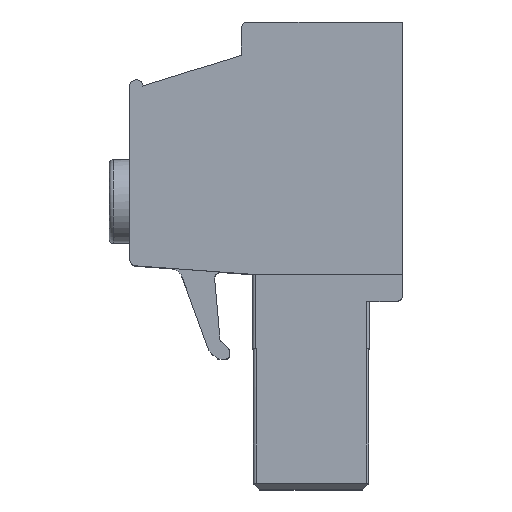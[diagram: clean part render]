
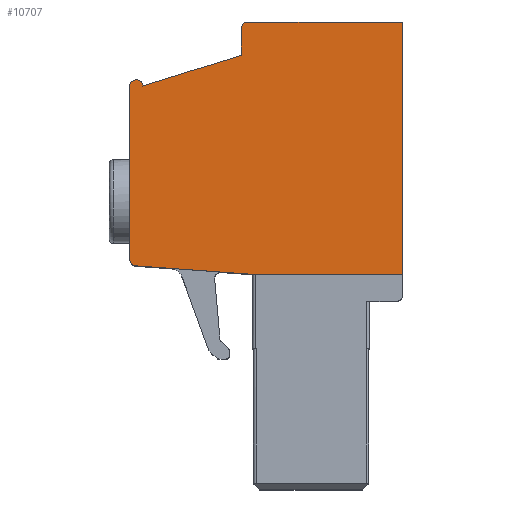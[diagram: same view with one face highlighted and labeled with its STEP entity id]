
A CAD part, top view. The second image highlights one B-rep face of the part: STEP entity #10707.
In plain terms, the highlighted planar face has unit normal (0, 0, 1).
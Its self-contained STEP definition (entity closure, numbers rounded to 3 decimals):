
#528=DIRECTION('',(1.,0.,0.));
#529=VECTOR('',#528,11.7);
#530=CARTESIAN_POINT('',(11.2,20.614,-22.724));
#531=LINE('',#530,#529);
#1682=CARTESIAN_POINT('',(2.1,21.779,-22.724));
#1683=DIRECTION('',(0.,0.,-1.));
#1684=DIRECTION('',(-0.073,-0.997,0.));
#1685=AXIS2_PLACEMENT_3D('',#1682,#1683,#1684);
#1687=DIRECTION('',(0.,1.,0.));
#1688=VECTOR('',#1687,13.535);
#1689=CARTESIAN_POINT('',(1.6,21.779,-22.724));
#1690=LINE('',#1689,#1688);
#1691=CARTESIAN_POINT('',(2.1,35.314,-22.724));
#1692=DIRECTION('',(0.,0.,-1.));
#1693=DIRECTION('',(-1.,0.,0.));
#1694=AXIS2_PLACEMENT_3D('',#1691,#1692,#1693);
#1696=DIRECTION('',(0.955,0.298,0.));
#1697=VECTOR('',#1696,8.065);
#1698=CARTESIAN_POINT('',(2.6,35.314,-22.724));
#1699=LINE('',#1698,#1697);
#1700=DIRECTION('',(0.,1.,0.));
#1701=VECTOR('',#1700,2.1);
#1702=CARTESIAN_POINT('',(10.3,37.714,-22.724));
#1703=LINE('',#1702,#1701);
#1704=CARTESIAN_POINT('',(10.8,39.814,-22.724));
#1705=DIRECTION('',(0.,0.,-1.));
#1706=DIRECTION('',(-1.,0.,0.));
#1707=AXIS2_PLACEMENT_3D('',#1704,#1705,#1706);
#1709=DIRECTION('',(1.,0.,0.));
#1710=VECTOR('',#1709,12.1);
#1711=CARTESIAN_POINT('',(10.8,40.314,-22.724));
#1712=LINE('',#1711,#1710);
#1713=DIRECTION('',(0.,-1.,0.));
#1714=VECTOR('',#1713,19.7);
#1715=CARTESIAN_POINT('',(22.9,40.314,-22.724));
#1716=LINE('',#1715,#1714);
#1717=DIRECTION('',(-0.997,0.073,0.));
#1718=VECTOR('',#1717,9.161);
#1719=CARTESIAN_POINT('',(11.2,20.614,-22.724));
#1720=LINE('',#1719,#1718);
#6498=CARTESIAN_POINT('',(1.6,35.314,-22.724));
#6500=VERTEX_POINT('',#6498);
#6502=CARTESIAN_POINT('',(1.6,21.779,-22.724));
#6503=VERTEX_POINT('',#6502);
#6542=CARTESIAN_POINT('',(2.6,35.314,-22.724));
#6543=VERTEX_POINT('',#6542);
#6588=CARTESIAN_POINT('',(22.9,40.314,-22.724));
#6590=VERTEX_POINT('',#6588);
#6592=CARTESIAN_POINT('',(10.8,40.314,-22.724));
#6593=VERTEX_POINT('',#6592);
#6610=CARTESIAN_POINT('',(22.9,20.614,-22.724));
#6611=VERTEX_POINT('',#6610);
#6776=CARTESIAN_POINT('',(2.064,21.28,-22.724));
#6778=VERTEX_POINT('',#6776);
#6780=CARTESIAN_POINT('',(11.2,20.614,-22.724));
#6781=VERTEX_POINT('',#6780);
#6824=CARTESIAN_POINT('',(10.3,37.714,-22.724));
#6825=VERTEX_POINT('',#6824);
#6826=CARTESIAN_POINT('',(10.3,39.814,-22.724));
#6827=VERTEX_POINT('',#6826);
#10687=CARTESIAN_POINT('',(20.3,18.514,-22.724));
#10688=DIRECTION('',(0.,0.,1.));
#10689=DIRECTION('',(1.,0.,0.));
#10690=AXIS2_PLACEMENT_3D('',#10687,#10688,#10689);
#10691=PLANE('',#10690);
#10692=ORIENTED_EDGE('',*,*,#8353,.T.);
#10693=ORIENTED_EDGE('',*,*,#8368,.T.);
#10694=ORIENTED_EDGE('',*,*,#8433,.T.);
#10696=ORIENTED_EDGE('',*,*,#10695,.T.);
#10698=ORIENTED_EDGE('',*,*,#10697,.T.);
#10700=ORIENTED_EDGE('',*,*,#10699,.T.);
#10701=ORIENTED_EDGE('',*,*,#10672,.T.);
#10702=ORIENTED_EDGE('',*,*,#8845,.T.);
#10703=ORIENTED_EDGE('',*,*,#9231,.F.);
#10704=ORIENTED_EDGE('',*,*,#8288,.T.);
#10705=EDGE_LOOP('',(#10692,#10693,#10694,#10696,#10698,#10700,#10701,#10702,
#10703,#10704));
#10706=FACE_OUTER_BOUND('',#10705,.F.);
#10707=ADVANCED_FACE('',(#10706),#10691,.T.);
#1686=CIRCLE('',#1685,0.5);
#1695=CIRCLE('',#1694,0.5);
#1708=CIRCLE('',#1707,0.5);
#8288=EDGE_CURVE('',#6781,#6778,#1720,.T.);
#8353=EDGE_CURVE('',#6778,#6503,#1686,.T.);
#8368=EDGE_CURVE('',#6503,#6500,#1690,.T.);
#8433=EDGE_CURVE('',#6500,#6543,#1695,.T.);
#8845=EDGE_CURVE('',#6590,#6611,#1716,.T.);
#9231=EDGE_CURVE('',#6781,#6611,#531,.T.);
#10672=EDGE_CURVE('',#6593,#6590,#1712,.T.);
#10695=EDGE_CURVE('',#6543,#6825,#1699,.T.);
#10697=EDGE_CURVE('',#6825,#6827,#1703,.T.);
#10699=EDGE_CURVE('',#6827,#6593,#1708,.T.);
